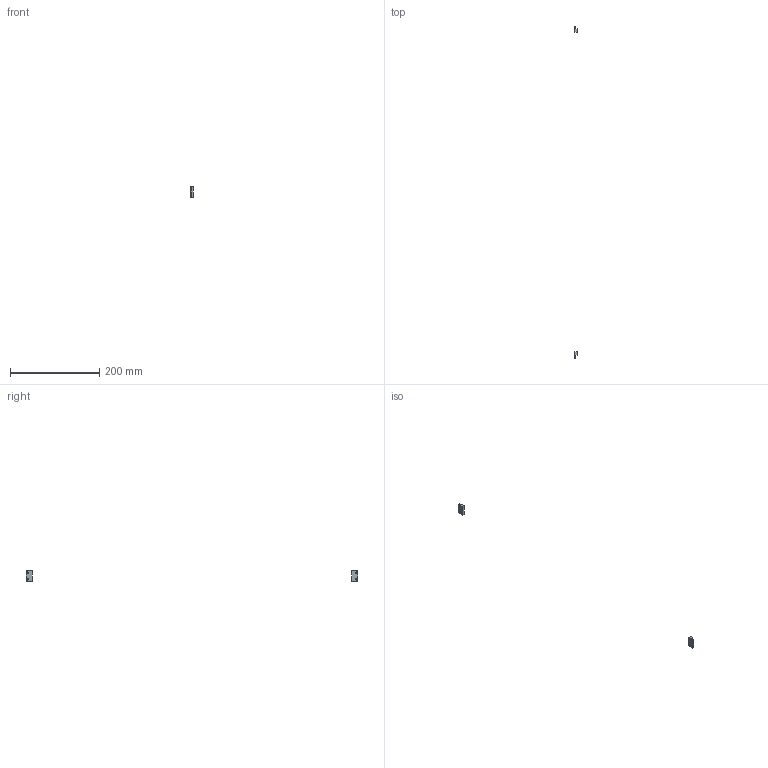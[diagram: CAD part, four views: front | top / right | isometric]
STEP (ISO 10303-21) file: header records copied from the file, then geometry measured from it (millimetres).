
FILE_DESCRIPTION(/* description */ (''),/* implementation_level */ '2;1');
FILE_NAME(/* name */ 'Y-6855~1',/* time_stamp */ '2014-02-14T19:43:52+01:00',/* author */ (''),/* organization */ (''),/* preprocessor_version */ 'ST-DEVELOPER v14',/* originating_system */ '',/* authorisation */ '');
FILE_SCHEMA (('AUTOMOTIVE_DESIGN'));
Length unit declared in the file: millimetre
Products named in the file (1): Document
Bounding box: 6 x 742.27 x 23 mm (x, y, z)
Volume: 2826.6 mm3; surface area: 2150.7 mm2
Topology: 2 solids, 2 shells, 32 faces, 84 edges, 56 vertices
Faces by surface type: plane 16, bspline 16
Entity records: 2047 total; most frequent: CARTESIAN_POINT 910, B_SPLINE_CURVE_WITH_KNOTS 204, ORIENTED_EDGE 168, PCURVE 168, DEFINITIONAL_REPRESENTATION 168, SURFACE_CURVE 84, EDGE_CURVE 84, VERTEX_POINT 56
